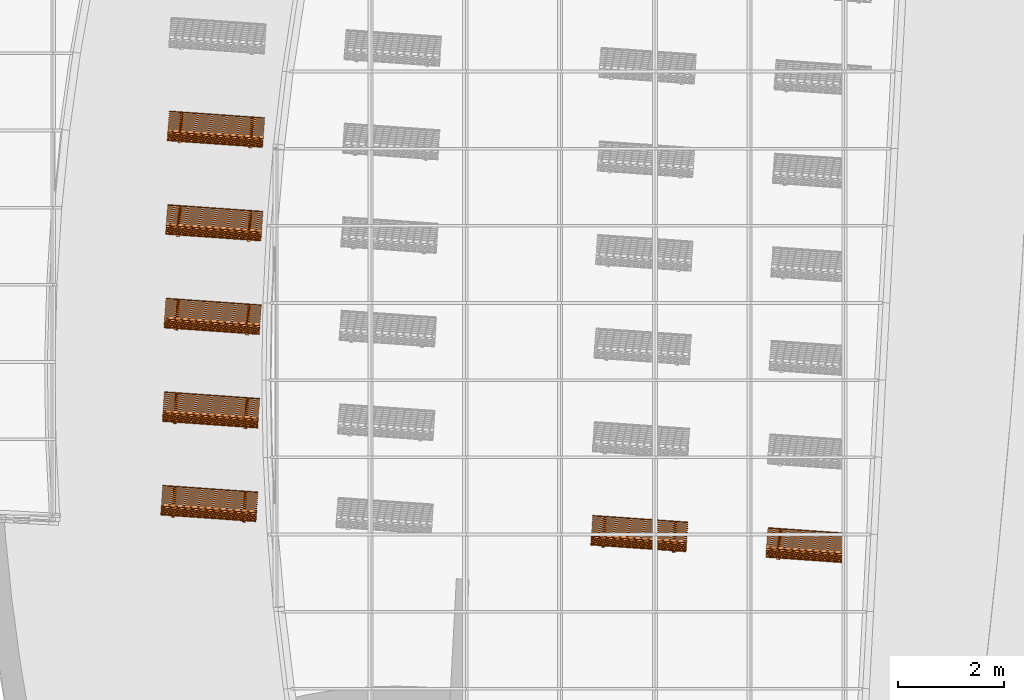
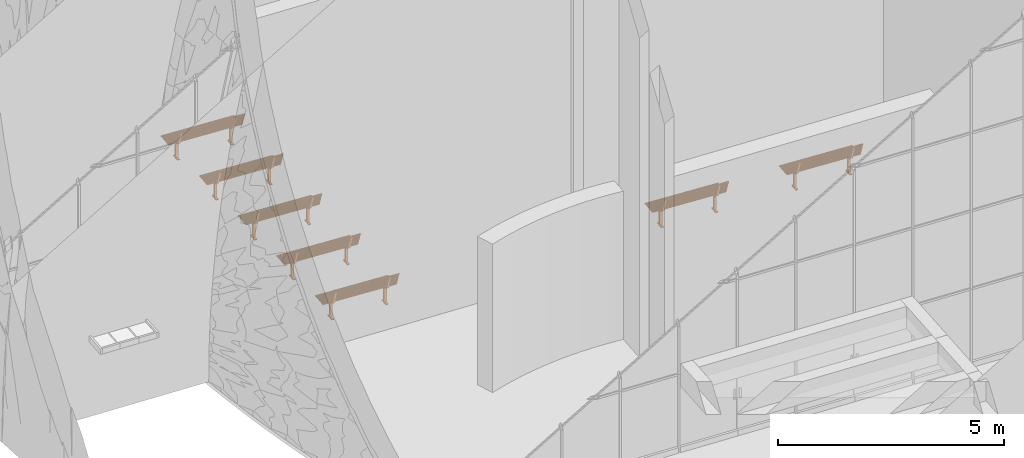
# One storey, part 75 of 82: 7 proxies.
"""IFC2X3 building model written with IfcOpenShell, lengths in millimetres."""

from ifc_helpers import new_model, entity, si_unit, converted_unit, derived_unit, direction, frame, frame_2d, origin, origin_2d_with_axis, place, context, subcontext, project, spatial, polyline, circle_curve, parameter, trimmed, segment, composite_curve, rectangle, outline, extrude, source, transform, mapped, material, material_list, element, save


model = new_model("IFC2X3")

# Units and contexts
model_context = context("Model", 3, precision=0.01, world=origin(), true_north=direction((6.12303176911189e-17, 1.0)))
body_context = subcontext(model_context, "Body", "Model", "MODEL_VIEW")
ifc_project = project(units=[si_unit("LENGTHUNIT", "METRE", prefix="MILLI"), si_unit("AREAUNIT", "SQUARE_METRE"), si_unit("VOLUMEUNIT", "CUBIC_METRE"), converted_unit("PLANEANGLEUNIT", "DEGREE", entity("IfcRatioMeasure", 0.0174532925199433), si_unit("PLANEANGLEUNIT", "RADIAN"), dimensions=[0, 0, 0, 0, 0, 0, 0]), si_unit("MASSUNIT", "GRAM", prefix="KILO"), derived_unit("MASSDENSITYUNIT", [(si_unit("MASSUNIT", "GRAM", prefix="KILO"), 1), (si_unit("LENGTHUNIT", "METRE"), -3)]), si_unit("TIMEUNIT", "SECOND"), si_unit("FREQUENCYUNIT", "HERTZ"), si_unit("THERMODYNAMICTEMPERATUREUNIT", "DEGREE_CELSIUS"), derived_unit("THERMALTRANSMITTANCEUNIT", [(si_unit("MASSUNIT", "GRAM", prefix="KILO"), 1), (si_unit("THERMODYNAMICTEMPERATUREUNIT", "KELVIN"), -1), (si_unit("TIMEUNIT", "SECOND"), -3)]), derived_unit("VOLUMETRICFLOWRATEUNIT", [(si_unit("LENGTHUNIT", "METRE"), 3), (si_unit("TIMEUNIT", "SECOND"), -1)]), si_unit("ELECTRICCURRENTUNIT", "AMPERE"), si_unit("ELECTRICVOLTAGEUNIT", "VOLT"), si_unit("POWERUNIT", "WATT"), si_unit("FORCEUNIT", "NEWTON", prefix="KILO"), si_unit("ILLUMINANCEUNIT", "LUX"), si_unit("LUMINOUSFLUXUNIT", "LUMEN"), si_unit("LUMINOUSINTENSITYUNIT", "CANDELA"), derived_unit("USERDEFINED", [(si_unit("MASSUNIT", "GRAM", prefix="KILO"), -1), (si_unit("LENGTHUNIT", "METRE"), -2), (si_unit("TIMEUNIT", "SECOND"), 3), (si_unit("LUMINOUSFLUXUNIT", "LUMEN"), 1)]), derived_unit("LINEARVELOCITYUNIT", [(si_unit("LENGTHUNIT", "METRE"), 1), (si_unit("TIMEUNIT", "SECOND"), -1)]), si_unit("PRESSUREUNIT", "PASCAL"), derived_unit("USERDEFINED", [(si_unit("LENGTHUNIT", "METRE"), -2), (si_unit("MASSUNIT", "GRAM", prefix="KILO"), 1), (si_unit("TIMEUNIT", "SECOND"), -2)])], contexts=[model_context])

# Site, building, storey
site_placement = place(None, origin())
site = spatial("IfcSite", under=ifc_project, at=site_placement, Name="表面", CompositionType="ELEMENT")
building_placement = place(site_placement, origin())
building = spatial("IfcBuilding", under=site, at=building_placement, CompositionType="ELEMENT")
storey_placement = place(building_placement, origin())
storey = spatial("IfcBuildingStorey", under=building, at=storey_placement, Name="1F", CompositionType="ELEMENT", Elevation=0.0)

# Proxies
ifc_material_1 = material(Name="木质 - 柚木")
ifc_material_2 = material(Name="金属 - 油漆面层 - 深灰色，粗面")
ifc_material_list_1 = material_list([ifc_material_1, ifc_material_2])
shared_shape_1 = source(origin(), body_context, "Body", "SweptSolid", [
    extrude(outline(composite_curve([segment(polyline([(0.797293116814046, -5.21607142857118), (12.0635827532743, -5.21607142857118)]), True, "CONTINUOUS"), segment(polyline([(12.0635827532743, -5.21607142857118), (12.0635827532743, 20.1839285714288)]), True, "CONTINUOUS"), segment(polyline([(12.0635827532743, 20.1839285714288), (0.951082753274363, 20.1839285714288)]), True, "CONTINUOUS"), segment(trimmed(circle_curve(frame_2d((0.951082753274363, 5.89642857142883), x_axis=(1.0, 0.0)), 14.2875), [parameter(89.9999999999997)], [parameter(179.999999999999)], True, "PARAMETER"), True, "CONTINUOUS"), segment(polyline([(-13.3364172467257, 5.89642857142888), (-13.3364172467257, -17.9160714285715)]), True, "CONTINUOUS"), segment(polyline([(-13.3364172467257, -17.9160714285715), (0.797293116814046, -17.9160714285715)]), True, "CONTINUOUS"), segment(polyline([(0.797293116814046, -17.9160714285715), (0.797293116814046, -5.21607142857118)]), True, "CONTINUOUS")], self_intersect=False)), frame((-900.0, -305.597293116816, 462.416071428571), z_axis=(1.0, 0.0, 0.0), x_axis=(0.0, 1.0, 0.0)), (0.0, 0.0, 1.0), 1800.0),
    extrude(outline(composite_curve([segment(polyline([(-12.6999999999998, -17.78), (0.0, -17.78)]), True, "CONTINUOUS"), segment(trimmed(circle_curve(frame_2d((0.0, -5.07999999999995), x_axis=(-0.939692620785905, -0.342020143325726)), 12.7), [parameter(69.9999999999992)], [parameter(160.0)], True, "PARAMETER"), True, "CONTINUOUS"), segment(polyline([(12.7, -5.07999999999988), (12.6999999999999, 20.3200000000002)]), True, "CONTINUOUS"), segment(polyline([(12.6999999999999, 20.3200000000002), (-12.7000000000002, 20.3200000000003)]), True, "CONTINUOUS"), segment(polyline([(-12.7000000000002, 20.3200000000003), (-12.6999999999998, -17.78)]), True, "CONTINUOUS")], self_intersect=False)), frame((-900.0, 231.374580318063, 850.885044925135), z_axis=(1.0, 0.0, 0.0), x_axis=(0.0, -0.939692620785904, 0.342020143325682)), (0.0, 0.0, 1.0), 1800.0),
    extrude(rectangle(XDim=1800.0, YDim=25.4, at=frame_2d((0.0, 1.68753899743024e-14), x_axis=(1.0, 0.0))), frame((0.0, -268.133710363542, 457.2), z_axis=(0.0, 0.0, 1.0), x_axis=(-1.0, 0.0, 0.0)), (0.0, 0.0, 1.0), 25.4),
    extrude(rectangle(XDim=1800.0, YDim=25.4, at=frame_2d((0.0, 1.68753899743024e-14), x_axis=(1.0, 0.0))), frame((0.0, -230.033710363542, 457.2), z_axis=(0.0, 0.0, 1.0), x_axis=(-1.0, 0.0, 0.0)), (0.0, 0.0, 1.0), 25.4),
    extrude(rectangle(XDim=1800.0, YDim=25.4, at=frame_2d((0.0, 1.68753899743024e-14), x_axis=(1.0, 0.0))), frame((0.0, -191.933710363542, 457.2), z_axis=(0.0, 0.0, 1.0), x_axis=(-1.0, 0.0, 0.0)), (0.0, 0.0, 1.0), 25.4),
    extrude(rectangle(XDim=1800.0, YDim=25.4, at=frame_2d((0.0, 1.68753899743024e-14), x_axis=(1.0, 0.0))), frame((0.0, -153.833710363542, 457.2), z_axis=(0.0, 0.0, 1.0), x_axis=(-1.0, 0.0, 0.0)), (0.0, 0.0, 1.0), 25.4),
    extrude(rectangle(XDim=1800.0, YDim=25.4, at=frame_2d((0.0, 1.68753899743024e-14), x_axis=(1.0, 0.0))), frame((0.0, -115.733710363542, 457.2), z_axis=(0.0, 0.0, 1.0), x_axis=(-1.0, 0.0, 0.0)), (0.0, 0.0, 1.0), 25.4),
    extrude(rectangle(XDim=1800.0, YDim=25.4, at=origin_2d_with_axis()), frame((0.0, -77.6337103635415, 457.2), z_axis=(0.0, 0.0, 1.0), x_axis=(-1.0, 0.0, 0.0)), (0.0, 0.0, 1.0), 25.4),
    extrude(rectangle(XDim=1800.0, YDim=25.4, at=origin_2d_with_axis()), frame((0.0, -39.5337103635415, 457.2), z_axis=(0.0, 0.0, 1.0), x_axis=(-1.0, 0.0, 0.0)), (0.0, 0.0, 1.0), 25.4),
    extrude(rectangle(XDim=1800.0, YDim=25.4, at=origin_2d_with_axis()), frame((0.0, -1.43371036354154, 457.2), z_axis=(0.0, 0.0, 1.0), x_axis=(-1.0, 0.0, 0.0)), (0.0, 0.0, 1.0), 25.4),
    extrude(rectangle(XDim=1800.0, YDim=25.4, at=origin_2d_with_axis()), frame((0.0, 36.6662896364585, 457.2), z_axis=(0.0, 0.0, 1.0), x_axis=(-1.0, 0.0, 0.0)), (0.0, 0.0, 1.0), 25.4),
    extrude(rectangle(XDim=25.4, YDim=25.4, at=frame_2d((3.10862446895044e-14, -1.33226762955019e-13), x_axis=(0.0, 1.0))), frame((-900.0, 137.551614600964, 593.108565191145), z_axis=(1.0, 0.0, 0.0), x_axis=(0.0, -0.939692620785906, 0.342020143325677)), (0.0, 0.0, 1.0), 1800.0),
    extrude(rectangle(XDim=25.4, YDim=25.4000000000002, at=frame_2d((-8.61533067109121e-14, 4.08562073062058e-14), x_axis=(0.0, 1.0))), frame((-900.0, 150.582582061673, 628.910854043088), z_axis=(1.0, 0.0, 0.0), x_axis=(0.0, -0.939692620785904, 0.342020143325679)), (0.0, 0.0, 1.0), 1800.0),
    extrude(rectangle(XDim=25.4000000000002, YDim=25.4, at=frame_2d((-3.19744231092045e-14, -1.15463194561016e-14), x_axis=(0.0, 1.0))), frame((-900.0, 111.489679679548, 521.503987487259), z_axis=(1.0, 0.0, 0.0), x_axis=(0.0, -0.939692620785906, 0.342020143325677)), (0.0, 0.0, 1.0), 1800.0),
    extrude(rectangle(XDim=25.4, YDim=25.3999999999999, at=frame_2d((0.0, 0.0), x_axis=(0.0, 1.0))), frame((-900.0, 124.520647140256, 557.306276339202), z_axis=(1.0, 0.0, 0.0), x_axis=(0.0, -0.939692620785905, 0.342020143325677)), (0.0, 0.0, 1.0), 1800.0),
    extrude(rectangle(XDim=25.3999999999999, YDim=25.4, at=frame_2d((-3.10862446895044e-14, -1.06581410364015e-14), x_axis=(0.0, 1.0))), frame((-900.0, 189.675484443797, 736.317720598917), z_axis=(1.0, 0.0, 0.0), x_axis=(0.0, -0.939692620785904, 0.342020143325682)), (0.0, 0.0, 1.0), 1800.0),
    extrude(rectangle(XDim=25.3999999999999, YDim=25.4000000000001, at=frame_2d((-3.10862446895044e-14, -1.33226762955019e-14), x_axis=(0.0, 1.0))), frame((-900.0, 202.706451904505, 772.12000945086), z_axis=(1.0, 0.0, 0.0), x_axis=(0.0, -0.939692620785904, 0.34202014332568)), (0.0, 0.0, 1.0), 1800.0),
    extrude(rectangle(XDim=25.4, YDim=25.3999999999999, at=frame_2d((0.0, 0.0), x_axis=(0.0, 1.0))), frame((-900.0, 163.613549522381, 664.713142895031), z_axis=(1.0, 0.0, 0.0), x_axis=(0.0, -0.939692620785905, 0.342020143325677)), (0.0, 0.0, 1.0), 1800.0),
    extrude(rectangle(XDim=25.4, YDim=25.4, at=frame_2d((-7.99360577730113e-15, -7.63833440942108e-14), x_axis=(0.0, 1.0))), frame((-900.0, 176.644516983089, 700.515431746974), z_axis=(1.0, 0.0, 0.0), x_axis=(0.0, -0.939692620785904, 0.342020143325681)), (0.0, 0.0, 1.0), 1800.0),
    extrude(rectangle(XDim=25.4, YDim=25.3999999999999, at=frame_2d((3.19744231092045e-14, 1.06581410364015e-14), x_axis=(0.0, 1.0))), frame((-900.0, 215.737419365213, 807.922298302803), z_axis=(1.0, 0.0, 0.0), x_axis=(0.0, -0.939692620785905, 0.342020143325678)), (0.0, 0.0, 1.0), 1800.0),
    extrude(rectangle(XDim=25.4000000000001, YDim=25.3999999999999, at=frame_2d((-1.33226762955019e-14, -9.76996261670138e-15), x_axis=(0.0, 1.0))), frame((-900.0, 96.4732295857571, 493.845543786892), z_axis=(1.0, 0.0, 0.0), x_axis=(0.0, -0.81915204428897, 0.573576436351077)), (0.0, 0.0, 1.0), 1800.0),
    extrude(rectangle(XDim=25.4, YDim=25.4000000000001, at=frame_2d((4.44089209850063e-15, 1.68753899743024e-14), x_axis=(1.0, 0.0))), frame((-900.0, 68.061957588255, 472.784050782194), z_axis=(1.0, 0.0, 0.0), x_axis=(0.0, -0.258819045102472, 0.965925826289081)), (0.0, 0.0, 1.0), 1800.0),
    extrude(outline(composite_curve([segment(polyline([(344.97581690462, -133.451056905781), (370.37581690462, -133.451056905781)]), True, "CONTINUOUS"), segment(polyline([(370.37581690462, -133.451056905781), (370.37581690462, 69.7489430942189)]), True, "CONTINUOUS"), segment(polyline([(370.37581690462, 69.7489430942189), (344.97581690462, 69.7489430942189)]), True, "CONTINUOUS"), segment(polyline([(344.97581690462, 69.7489430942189), (344.97581690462, -6.45105690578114)]), True, "CONTINUOUS"), segment(polyline([(344.97581690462, -6.45105690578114), (-61.4241830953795, -6.45105690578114)]), True, "CONTINUOUS"), segment(polyline([(-61.4241830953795, -6.45105690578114), (-61.4241830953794, 25.2857644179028)]), True, "CONTINUOUS"), segment(trimmed(circle_curve(frame_2d((-150.324183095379, 25.2857644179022), x_axis=(0.0, 1.0)), 88.8999999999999), [parameter(270.0)], [parameter(340.0)], True, "PARAMETER"), True, "CONTINUOUS"), segment(polyline([(-119.918592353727, 108.824438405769), (-483.896145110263, 241.301433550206)]), True, "CONTINUOUS"), segment(polyline([(-483.896145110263, 241.301433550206), (-488.239800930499, 229.367337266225)]), True, "CONTINUOUS"), segment(trimmed(circle_curve(frame_2d((-476.305704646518, 225.023681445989), x_axis=(0.0, 1.0)), 12.7), [parameter(69.9999999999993)], [parameter(160.0)], True, "PARAMETER"), True, "CONTINUOUS"), segment(polyline([(-480.649360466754, 213.089585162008), (-128.6059039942, 84.9562458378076)]), True, "CONTINUOUS"), segment(trimmed(circle_curve(frame_2d((-150.32418309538, 25.2857644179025), x_axis=(0.0, 1.0)), 63.5), [parameter(270.0)], [parameter(340.0)], True, "PARAMETER"), False, "CONTINUOUS"), segment(polyline([(-86.8241830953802, 25.2857644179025), (-86.8241830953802, -336.651056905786)]), True, "CONTINUOUS"), segment(polyline([(-86.8241830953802, -336.651056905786), (-61.4241830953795, -336.651056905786)]), True, "CONTINUOUS"), segment(polyline([(-61.4241830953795, -336.651056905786), (-61.4241830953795, -57.2510569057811)]), True, "CONTINUOUS"), segment(polyline([(-61.4241830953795, -57.2510569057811), (344.97581690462, -57.2510569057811)]), True, "CONTINUOUS"), segment(polyline([(344.97581690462, -57.2510569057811), (344.97581690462, -133.451056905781)]), True, "CONTINUOUS")], self_intersect=False)), frame((633.973659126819, 31.8510569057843, 370.37581690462), z_axis=(1.0, 0.0, 0.0), x_axis=(0.0, 0.0, -1.0)), (0.0, 0.0, 1.0), 62.8263408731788),
    extrude(outline(composite_curve([segment(polyline([(344.97581690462, -133.451056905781), (370.37581690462, -133.451056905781)]), True, "CONTINUOUS"), segment(polyline([(370.37581690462, -133.451056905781), (370.37581690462, 69.7489430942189)]), True, "CONTINUOUS"), segment(polyline([(370.37581690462, 69.7489430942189), (344.97581690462, 69.7489430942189)]), True, "CONTINUOUS"), segment(polyline([(344.97581690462, 69.7489430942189), (344.97581690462, -6.45105690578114)]), True, "CONTINUOUS"), segment(polyline([(344.97581690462, -6.45105690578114), (-61.4241830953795, -6.45105690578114)]), True, "CONTINUOUS"), segment(polyline([(-61.4241830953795, -6.45105690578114), (-61.4241830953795, 25.2857644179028)]), True, "CONTINUOUS"), segment(trimmed(circle_curve(frame_2d((-150.32418309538, 25.2857644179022), x_axis=(0.0, 1.0)), 88.9), [parameter(270.0)], [parameter(340.0)], True, "PARAMETER"), True, "CONTINUOUS"), segment(polyline([(-119.918592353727, 108.824438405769), (-483.896145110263, 241.301433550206)]), True, "CONTINUOUS"), segment(polyline([(-483.896145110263, 241.301433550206), (-488.239800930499, 229.367337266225)]), True, "CONTINUOUS"), segment(trimmed(circle_curve(frame_2d((-476.305704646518, 225.023681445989), x_axis=(0.0, 1.0)), 12.7), [parameter(69.9999999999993)], [parameter(160.0)], True, "PARAMETER"), True, "CONTINUOUS"), segment(polyline([(-480.649360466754, 213.089585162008), (-128.6059039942, 84.9562458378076)]), True, "CONTINUOUS"), segment(trimmed(circle_curve(frame_2d((-150.32418309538, 25.2857644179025), x_axis=(0.0, 1.0)), 63.5), [parameter(270.0)], [parameter(340.0)], True, "PARAMETER"), False, "CONTINUOUS"), segment(polyline([(-86.8241830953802, 25.2857644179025), (-86.8241830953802, -336.651056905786)]), True, "CONTINUOUS"), segment(polyline([(-86.8241830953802, -336.651056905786), (-61.4241830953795, -336.651056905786)]), True, "CONTINUOUS"), segment(polyline([(-61.4241830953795, -336.651056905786), (-61.4241830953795, -57.2510569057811)]), True, "CONTINUOUS"), segment(polyline([(-61.4241830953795, -57.2510569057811), (344.97581690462, -57.2510569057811)]), True, "CONTINUOUS"), segment(polyline([(344.97581690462, -57.2510569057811), (344.97581690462, -133.451056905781)]), True, "CONTINUOUS")], self_intersect=False)), frame((-696.799999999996, 31.8510569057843, 370.37581690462), z_axis=(1.0, 0.0, 0.0), x_axis=(0.0, 0.0, -1.0)), (0.0, 0.0, 1.0), 63.8916859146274),
])
proxy_1_placement = place(storey_placement, frame((-23772.5619852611, -20654.8340332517, 0.0), z_axis=(0.0, 0.0, 1.0), x_axis=(-0.997564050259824, 0.0697564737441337, 0.0)))
element("IfcBuildingElementProxy", 1, at=proxy_1_placement, inside=storey, material=ifc_material_list_1, Name="长椅:1800 mm", ObjectType="1800 mm", context=body_context, shape_type="MappedRepresentation", body=[
    mapped(shared_shape_1, transform((0.0, 0.0, 0.0), scale=1.0)),
])
ifc_material_list_2 = material_list([ifc_material_1, ifc_material_2])
proxy_2_placement = place(storey_placement, frame((-20480.6006194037, -20885.0303966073, 0.0), z_axis=(0.0, 0.0, 1.0), x_axis=(-0.997564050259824, 0.0697564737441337, 0.0)))
element("IfcBuildingElementProxy", 2, at=proxy_2_placement, inside=storey, material=ifc_material_list_2, Name="长椅:1800 mm", ObjectType="1800 mm", context=body_context, shape_type="MappedRepresentation", body=[
    mapped(shared_shape_1, transform((0.0, 0.0, 0.0), scale=1.0)),
])
ifc_material_list_3 = material_list([ifc_material_1, ifc_material_2])
shared_shape_2 = source(origin(), body_context, "Body", "SweptSolid", [
    extrude(outline(composite_curve([segment(polyline([(5.21607142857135, -0.797293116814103), (17.9160714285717, -0.797293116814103)]), True, "CONTINUOUS"), segment(polyline([(17.9160714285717, -0.797293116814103), (17.9160714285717, 13.3364172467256)]), True, "CONTINUOUS"), segment(polyline([(17.9160714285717, 13.3364172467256), (-5.89642857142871, 13.3364172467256)]), True, "CONTINUOUS"), segment(trimmed(circle_curve(frame_2d((-5.89642857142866, -0.95108275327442), x_axis=(0.0, -1.0)), 14.2875), [parameter(180.000000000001)], [parameter(270.0)], True, "PARAMETER"), True, "CONTINUOUS"), segment(polyline([(-20.1839285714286, -0.95108275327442), (-20.1839285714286, -12.0635827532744)]), True, "CONTINUOUS"), segment(polyline([(-20.1839285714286, -12.0635827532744), (5.21607142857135, -12.0635827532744)]), True, "CONTINUOUS"), segment(polyline([(5.21607142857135, -12.0635827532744), (5.21607142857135, -0.797293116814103)]), True, "CONTINUOUS")], self_intersect=False)), frame((-900.0, 305.597293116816, 462.416071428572), z_axis=(1.0, 0.0, 0.0), x_axis=(0.0, 0.0, -1.0)), (0.0, 0.0, 1.0), 1800.0),
    extrude(outline(composite_curve([segment(polyline([(-17.7799999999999, -12.6999999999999), (20.3200000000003, -12.6999999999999)]), True, "CONTINUOUS"), segment(polyline([(20.3200000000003, -12.6999999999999), (20.3199999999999, 12.7000000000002)]), True, "CONTINUOUS"), segment(polyline([(20.3199999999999, 12.7000000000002), (-5.08000000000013, 12.7)]), True, "CONTINUOUS"), segment(trimmed(circle_curve(frame_2d((-5.08000000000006, 0.0), x_axis=(-0.342020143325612, -0.939692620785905)), 12.7), [parameter(200.0)], [parameter(290.000000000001)], True, "PARAMETER"), True, "CONTINUOUS"), segment(polyline([(-17.7800000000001, 0.0), (-17.7799999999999, -12.6999999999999)]), True, "CONTINUOUS")], self_intersect=False)), frame((-900.0, -231.374580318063, 850.885044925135), z_axis=(1.0, 0.0, 0.0), x_axis=(0.0, 0.342020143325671, -0.939692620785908)), (0.0, 0.0, 1.0), 1800.0),
    extrude(rectangle(XDim=25.4, YDim=1800.0, at=frame_2d((-1.68753899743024e-14, 0.0), x_axis=(1.0, 0.0))), frame((0.0, 268.133710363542, 457.2), z_axis=(0.0, 0.0, 1.0), x_axis=(0.0, 1.0, 0.0)), (0.0, 0.0, 1.0), 25.4),
    extrude(rectangle(XDim=25.4, YDim=1800.0, at=frame_2d((-1.68753899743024e-14, 0.0), x_axis=(1.0, 0.0))), frame((0.0, 230.033710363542, 457.2), z_axis=(0.0, 0.0, 1.0), x_axis=(0.0, 1.0, 0.0)), (0.0, 0.0, 1.0), 25.4),
    extrude(rectangle(XDim=25.4, YDim=1800.0, at=frame_2d((-1.68753899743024e-14, 0.0), x_axis=(1.0, 0.0))), frame((0.0, 191.933710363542, 457.2), z_axis=(0.0, 0.0, 1.0), x_axis=(0.0, 1.0, 0.0)), (0.0, 0.0, 1.0), 25.4),
    extrude(rectangle(XDim=25.4, YDim=1800.0, at=frame_2d((-1.68753899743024e-14, 0.0), x_axis=(1.0, 0.0))), frame((0.0, 153.833710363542, 457.2), z_axis=(0.0, 0.0, 1.0), x_axis=(0.0, 1.0, 0.0)), (0.0, 0.0, 1.0), 25.4),
    extrude(rectangle(XDim=25.4, YDim=1800.0, at=origin_2d_with_axis()), frame((0.0, 115.733710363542, 457.2), z_axis=(0.0, 0.0, 1.0), x_axis=(0.0, 1.0, 0.0)), (0.0, 0.0, 1.0), 25.4),
    extrude(rectangle(XDim=25.4, YDim=1800.0, at=origin_2d_with_axis()), frame((0.0, 77.6337103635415, 457.2), z_axis=(0.0, 0.0, 1.0), x_axis=(0.0, 1.0, 0.0)), (0.0, 0.0, 1.0), 25.4),
    extrude(rectangle(XDim=25.4, YDim=1800.0, at=origin_2d_with_axis()), frame((0.0, 39.5337103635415, 457.2), z_axis=(0.0, 0.0, 1.0), x_axis=(0.0, 1.0, 0.0)), (0.0, 0.0, 1.0), 25.4),
    extrude(rectangle(XDim=25.4, YDim=1800.0, at=origin_2d_with_axis()), frame((0.0, 1.43371036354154, 457.2), z_axis=(0.0, 0.0, 1.0), x_axis=(0.0, 1.0, 0.0)), (0.0, 0.0, 1.0), 25.4),
    extrude(rectangle(XDim=25.4, YDim=1800.0, at=origin_2d_with_axis()), frame((0.0, -36.6662896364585, 457.2), z_axis=(0.0, 0.0, 1.0), x_axis=(0.0, 1.0, 0.0)), (0.0, 0.0, 1.0), 25.4),
    extrude(rectangle(XDim=25.4, YDim=25.4, at=frame_2d((-1.33226762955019e-13, 3.01980662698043e-14), x_axis=(1.0, 0.0))), frame((-900.0, -137.551614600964, 593.108565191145), z_axis=(1.0, 0.0, 0.0), x_axis=(0.0, 0.342020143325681, -0.939692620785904)), (0.0, 0.0, 1.0), 1800.0),
    extrude(rectangle(XDim=25.4, YDim=25.4000000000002, at=frame_2d((3.99680288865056e-14, -8.61533067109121e-14), x_axis=(1.0, 0.0))), frame((-900.0, -150.582582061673, 628.910854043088), z_axis=(1.0, 0.0, 0.0), x_axis=(0.0, 0.342020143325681, -0.939692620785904)), (0.0, 0.0, 1.0), 1800.0),
    extrude(rectangle(XDim=25.4000000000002, YDim=25.4, at=frame_2d((-1.06581410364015e-14, -3.19744231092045e-14), x_axis=(1.0, 0.0))), frame((-900.0, -111.489679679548, 521.503987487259), z_axis=(1.0, 0.0, 0.0), x_axis=(0.0, 0.342020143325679, -0.939692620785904)), (0.0, 0.0, 1.0), 1800.0),
    extrude(rectangle(XDim=25.4, YDim=25.3999999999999, at=origin_2d_with_axis()), frame((-900.0, -124.520647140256, 557.306276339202), z_axis=(1.0, 0.0, 0.0), x_axis=(0.0, 0.342020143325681, -0.939692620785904)), (0.0, 0.0, 1.0), 1800.0),
    extrude(rectangle(XDim=25.3999999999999, YDim=25.4, at=frame_2d((-1.06581410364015e-14, -3.10862446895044e-14), x_axis=(1.0, 0.0))), frame((-900.0, -189.675484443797, 736.317720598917), z_axis=(1.0, 0.0, 0.0), x_axis=(0.0, 0.342020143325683, -0.939692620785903)), (0.0, 0.0, 1.0), 1800.0),
    extrude(rectangle(XDim=25.3999999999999, YDim=25.4000000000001, at=frame_2d((-1.33226762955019e-14, -3.19744231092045e-14), x_axis=(1.0, 0.0))), frame((-900.0, -202.706451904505, 772.12000945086), z_axis=(1.0, 0.0, 0.0), x_axis=(0.0, 0.342020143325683, -0.939692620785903)), (0.0, 0.0, 1.0), 1800.0),
    extrude(rectangle(XDim=25.4, YDim=25.3999999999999, at=origin_2d_with_axis()), frame((-900.0, -163.613549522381, 664.713142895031), z_axis=(1.0, 0.0, 0.0), x_axis=(0.0, 0.342020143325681, -0.939692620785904)), (0.0, 0.0, 1.0), 1800.0),
    extrude(rectangle(XDim=25.4, YDim=25.4, at=frame_2d((5.15143483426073e-14, -5.32907051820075e-14), x_axis=(1.0, 0.0))), frame((-900.0, -176.644516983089, 700.515431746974), z_axis=(1.0, 0.0, 0.0), x_axis=(0.0, 0.342020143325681, -0.939692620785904)), (0.0, 0.0, 1.0), 1800.0),
    extrude(rectangle(XDim=25.4, YDim=25.3999999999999, at=frame_2d((1.24344978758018e-14, 3.19744231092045e-14), x_axis=(1.0, 0.0))), frame((-900.0, -215.737419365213, 807.922298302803), z_axis=(1.0, 0.0, 0.0), x_axis=(0.0, 0.342020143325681, -0.939692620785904)), (0.0, 0.0, 1.0), 1800.0),
    extrude(rectangle(XDim=25.4000000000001, YDim=25.3999999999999, at=frame_2d((-9.76996261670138e-15, -1.4210854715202e-14), x_axis=(1.0, 0.0))), frame((-900.0, -96.4732295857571, 493.845543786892), z_axis=(1.0, 0.0, 0.0), x_axis=(0.0, 0.573576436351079, -0.819152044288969)), (0.0, 0.0, 1.0), 1800.0),
    extrude(rectangle(XDim=25.4, YDim=25.4000000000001, at=frame_2d((5.24025267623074e-14, -1.25233157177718e-13), x_axis=(0.0, 1.0))), frame((-900.0, -68.061957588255, 472.784050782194), z_axis=(1.0, 0.0, 0.0), x_axis=(0.0, 0.965925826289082, -0.258819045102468)), (0.0, 0.0, 1.0), 1800.0),
    extrude(outline(composite_curve([segment(polyline([(-133.451056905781, -344.97581690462), (-133.451056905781, -370.37581690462)]), True, "CONTINUOUS"), segment(polyline([(-133.451056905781, -370.37581690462), (69.7489430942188, -370.37581690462)]), True, "CONTINUOUS"), segment(polyline([(69.7489430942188, -370.37581690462), (69.7489430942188, -344.97581690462)]), True, "CONTINUOUS"), segment(polyline([(69.7489430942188, -344.97581690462), (-6.45105690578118, -344.97581690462)]), True, "CONTINUOUS"), segment(polyline([(-6.45105690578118, -344.97581690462), (-6.45105690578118, 61.4241830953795)]), True, "CONTINUOUS"), segment(polyline([(-6.45105690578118, 61.4241830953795), (25.2857644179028, 61.4241830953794)]), True, "CONTINUOUS"), segment(trimmed(circle_curve(frame_2d((25.2857644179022, 150.324183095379), x_axis=(1.0, 0.0)), 88.8999999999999), [parameter(270.0)], [parameter(340.0)], True, "PARAMETER"), True, "CONTINUOUS"), segment(polyline([(108.824438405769, 119.918592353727), (241.301433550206, 483.896145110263)]), True, "CONTINUOUS"), segment(polyline([(241.301433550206, 483.896145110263), (229.367337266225, 488.239800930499)]), True, "CONTINUOUS"), segment(trimmed(circle_curve(frame_2d((225.023681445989, 476.305704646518), x_axis=(1.0, 0.0)), 12.7), [parameter(69.9999999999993)], [parameter(160.0)], True, "PARAMETER"), True, "CONTINUOUS"), segment(polyline([(213.089585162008, 480.649360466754), (84.9562458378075, 128.6059039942)]), True, "CONTINUOUS"), segment(trimmed(circle_curve(frame_2d((25.2857644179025, 150.32418309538), x_axis=(1.0, 0.0)), 63.5), [parameter(270.0)], [parameter(340.0)], True, "PARAMETER"), False, "CONTINUOUS"), segment(polyline([(25.2857644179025, 86.8241830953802), (-336.651056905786, 86.8241830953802)]), True, "CONTINUOUS"), segment(polyline([(-336.651056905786, 86.8241830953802), (-336.651056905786, 61.4241830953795)]), True, "CONTINUOUS"), segment(polyline([(-336.651056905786, 61.4241830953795), (-57.2510569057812, 61.4241830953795)]), True, "CONTINUOUS"), segment(polyline([(-57.2510569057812, 61.4241830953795), (-57.2510569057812, -344.97581690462)]), True, "CONTINUOUS"), segment(polyline([(-57.2510569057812, -344.97581690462), (-133.451056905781, -344.97581690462)]), True, "CONTINUOUS")], self_intersect=False)), frame((633.973659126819, -31.8510569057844, 370.37581690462), z_axis=(-1.0, 0.0, 0.0), x_axis=(0.0, -1.0, 0.0)), (0.0, 0.0, -1.0), 62.8263408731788),
    extrude(outline(composite_curve([segment(polyline([(-133.451056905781, -344.97581690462), (-133.451056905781, -370.37581690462)]), True, "CONTINUOUS"), segment(polyline([(-133.451056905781, -370.37581690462), (69.7489430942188, -370.37581690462)]), True, "CONTINUOUS"), segment(polyline([(69.7489430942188, -370.37581690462), (69.7489430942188, -344.97581690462)]), True, "CONTINUOUS"), segment(polyline([(69.7489430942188, -344.97581690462), (-6.45105690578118, -344.97581690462)]), True, "CONTINUOUS"), segment(polyline([(-6.45105690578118, -344.97581690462), (-6.45105690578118, 61.4241830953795)]), True, "CONTINUOUS"), segment(polyline([(-6.45105690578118, 61.4241830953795), (25.2857644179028, 61.4241830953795)]), True, "CONTINUOUS"), segment(trimmed(circle_curve(frame_2d((25.2857644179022, 150.32418309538), x_axis=(1.0, 0.0)), 88.9), [parameter(270.0)], [parameter(340.0)], True, "PARAMETER"), True, "CONTINUOUS"), segment(polyline([(108.824438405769, 119.918592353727), (241.301433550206, 483.896145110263)]), True, "CONTINUOUS"), segment(polyline([(241.301433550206, 483.896145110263), (229.367337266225, 488.239800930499)]), True, "CONTINUOUS"), segment(trimmed(circle_curve(frame_2d((225.023681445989, 476.305704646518), x_axis=(1.0, 0.0)), 12.7), [parameter(69.9999999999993)], [parameter(160.0)], True, "PARAMETER"), True, "CONTINUOUS"), segment(polyline([(213.089585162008, 480.649360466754), (84.9562458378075, 128.6059039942)]), True, "CONTINUOUS"), segment(trimmed(circle_curve(frame_2d((25.2857644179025, 150.32418309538), x_axis=(1.0, 0.0)), 63.5), [parameter(270.0)], [parameter(340.0)], True, "PARAMETER"), False, "CONTINUOUS"), segment(polyline([(25.2857644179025, 86.8241830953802), (-336.651056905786, 86.8241830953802)]), True, "CONTINUOUS"), segment(polyline([(-336.651056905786, 86.8241830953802), (-336.651056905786, 61.4241830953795)]), True, "CONTINUOUS"), segment(polyline([(-336.651056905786, 61.4241830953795), (-57.2510569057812, 61.4241830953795)]), True, "CONTINUOUS"), segment(polyline([(-57.2510569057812, 61.4241830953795), (-57.2510569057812, -344.97581690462)]), True, "CONTINUOUS"), segment(polyline([(-57.2510569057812, -344.97581690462), (-133.451056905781, -344.97581690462)]), True, "CONTINUOUS")], self_intersect=False)), frame((-696.799999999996, -31.8510569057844, 370.37581690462), z_axis=(-1.0, 0.0, 0.0), x_axis=(0.0, -1.0, 0.0)), (0.0, 0.0, -1.0), 63.8916859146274),
])
proxy_3_placement = place(storey_placement, frame((-31852.8307923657, -20089.8065959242, 0.0), z_axis=(0.0, 0.0, 1.0), x_axis=(0.997564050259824, -0.0697564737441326, 0.0)))
element("IfcBuildingElementProxy", 3, at=proxy_3_placement, inside=storey, material=ifc_material_list_3, Name="长椅:1800 mm", ObjectType="1800 mm", context=body_context, shape_type="MappedRepresentation", body=[
    mapped(shared_shape_2, transform((0.0, 0.0, 0.0), scale=1.0)),
])
ifc_material_list_4 = material_list([ifc_material_1, ifc_material_2])
proxy_4_placement = place(storey_placement, frame((-31730.074932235, -13057.1280790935, 0.0), z_axis=(0.0, 0.0, 1.0), x_axis=(0.997564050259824, -0.0697564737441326, 0.0)))
element("IfcBuildingElementProxy", 4, at=proxy_4_placement, inside=storey, material=ifc_material_list_4, Name="长椅:1800 mm", ObjectType="1800 mm", context=body_context, shape_type="MappedRepresentation", body=[
    mapped(shared_shape_2, transform((0.0, 0.0, 0.0), scale=1.0)),
])
ifc_material_list_5 = material_list([ifc_material_1, ifc_material_2])
proxy_5_placement = place(storey_placement, frame((-31760.7638972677, -14815.2977083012, 0.0), z_axis=(0.0, 0.0, 1.0), x_axis=(0.997564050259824, -0.0697564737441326, 0.0)))
element("IfcBuildingElementProxy", 5, at=proxy_5_placement, inside=storey, material=ifc_material_list_5, Name="长椅:1800 mm", ObjectType="1800 mm", context=body_context, shape_type="MappedRepresentation", body=[
    mapped(shared_shape_2, transform((0.0, 0.0, 0.0), scale=1.0)),
])
ifc_material_list_6 = material_list([ifc_material_1, ifc_material_2])
proxy_6_placement = place(storey_placement, frame((-31791.4528623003, -16573.4673375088, 0.0), z_axis=(0.0, 0.0, 1.0), x_axis=(0.997564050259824, -0.0697564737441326, 0.0)))
element("IfcBuildingElementProxy", 6, at=proxy_6_placement, inside=storey, material=ifc_material_list_6, Name="长椅:1800 mm", ObjectType="1800 mm", context=body_context, shape_type="MappedRepresentation", body=[
    mapped(shared_shape_2, transform((0.0, 0.0, 0.0), scale=1.0)),
])
ifc_material_list_7 = material_list([ifc_material_1, ifc_material_2])
proxy_7_placement = place(storey_placement, frame((-31822.141827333, -18331.6369667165, 0.0), z_axis=(0.0, 0.0, 1.0), x_axis=(0.997564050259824, -0.0697564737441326, 0.0)))
element("IfcBuildingElementProxy", 7, at=proxy_7_placement, inside=storey, material=ifc_material_list_7, Name="长椅:1800 mm", ObjectType="1800 mm", context=body_context, shape_type="MappedRepresentation", body=[
    mapped(shared_shape_2, transform((0.0, 0.0, 0.0), scale=1.0)),
])

save(model, "model.ifc")
